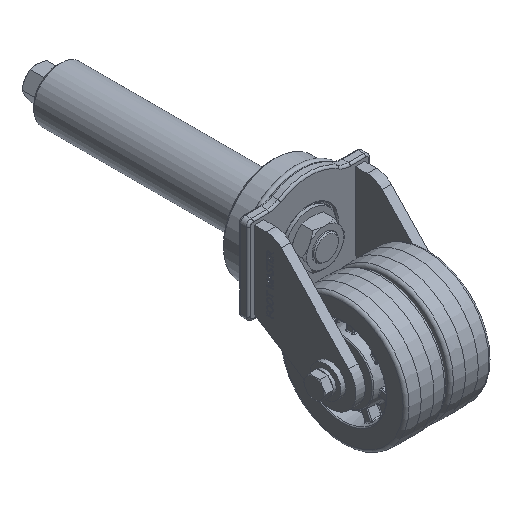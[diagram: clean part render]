
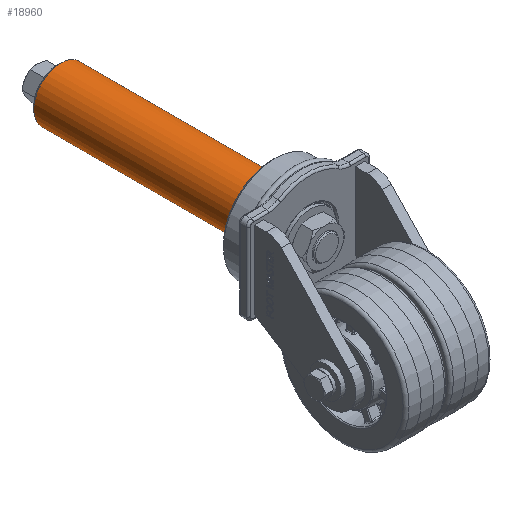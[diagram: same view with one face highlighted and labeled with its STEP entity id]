
A CAD part, isometric view. The second image highlights one B-rep face of the part: STEP entity #18960.
In plain terms, the highlighted cylindrical face has radius 26 mm (diameter 52 mm), a full revolution.
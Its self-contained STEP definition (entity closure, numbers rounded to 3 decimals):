
#598=CYLINDRICAL_SURFACE('',#20909,26.);
#1575=LINE('',#46008,#2560);
#2560=VECTOR('',#25738,26.);
#4952=FACE_OUTER_BOUND('',#6198,.T.);
#6198=EDGE_LOOP('',(#17593,#17594,#17595,#17596,#17597));
#7376=CIRCLE('',#20904,26.);
#7377=CIRCLE('',#20906,26.);
#7379=CIRCLE('',#20908,26.);
#9086=VERTEX_POINT('',#45997);
#9087=VERTEX_POINT('',#46000);
#9088=VERTEX_POINT('',#46001);
#11926=EDGE_CURVE('',#9086,#9086,#7376,.T.);
#11927=EDGE_CURVE('',#9087,#9088,#7377,.T.);
#11930=EDGE_CURVE('',#9088,#9087,#7379,.T.);
#11931=EDGE_CURVE('',#9087,#9086,#1575,.T.);
#17593=ORIENTED_EDGE('',*,*,#11927,.F.);
#17594=ORIENTED_EDGE('',*,*,#11931,.T.);
#17595=ORIENTED_EDGE('',*,*,#11926,.F.);
#17596=ORIENTED_EDGE('',*,*,#11931,.F.);
#17597=ORIENTED_EDGE('',*,*,#11930,.F.);
#18960=ADVANCED_FACE('',(#4952),#598,.T.);
#20904=AXIS2_PLACEMENT_3D('',#45998,#25725,#25726);
#20906=AXIS2_PLACEMENT_3D('',#46002,#25729,#25730);
#20908=AXIS2_PLACEMENT_3D('',#46006,#25734,#25735);
#20909=AXIS2_PLACEMENT_3D('',#46007,#25736,#25737);
#25725=DIRECTION('center_axis',(0.,-1.,0.));
#25726=DIRECTION('ref_axis',(-1.,0.,0.));
#25729=DIRECTION('center_axis',(0.,1.,0.));
#25730=DIRECTION('ref_axis',(1.,0.,0.));
#25734=DIRECTION('center_axis',(0.,1.,0.));
#25735=DIRECTION('ref_axis',(1.,0.,0.));
#25736=DIRECTION('center_axis',(0.,1.,0.));
#25737=DIRECTION('ref_axis',(-1.,0.,0.));
#25738=DIRECTION('',(0.,-1.,0.));
#45997=CARTESIAN_POINT('',(26.,33.,0.));
#45998=CARTESIAN_POINT('Origin',(0.,33.,0.));
#46000=CARTESIAN_POINT('',(26.,230.,0.));
#46001=CARTESIAN_POINT('',(-26.,230.,0.));
#46002=CARTESIAN_POINT('Origin',(0.,230.,0.));
#46006=CARTESIAN_POINT('Origin',(0.,230.,0.));
#46007=CARTESIAN_POINT('Origin',(0.,33.,0.));
#46008=CARTESIAN_POINT('',(26.,33.,0.));
